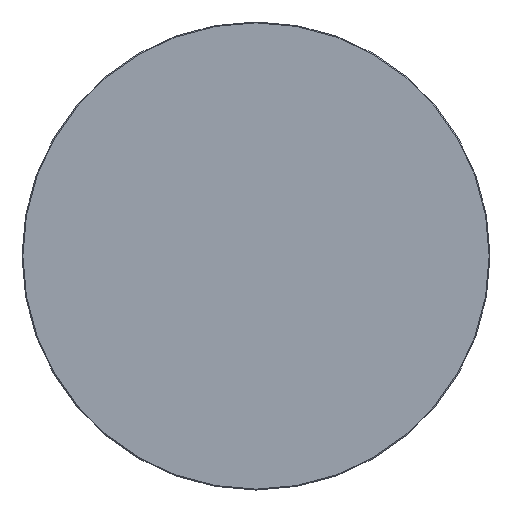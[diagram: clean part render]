
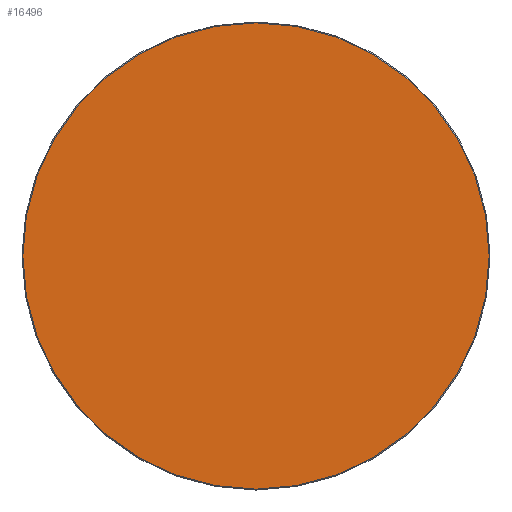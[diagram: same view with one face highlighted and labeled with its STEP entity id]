
A CAD part, top view. The second image highlights one B-rep face of the part: STEP entity #16496.
In plain terms, the highlighted planar face has unit normal (0, 0, 1).
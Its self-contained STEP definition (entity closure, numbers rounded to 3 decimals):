
#16421=CARTESIAN_POINT('',(0.,0.,20.));
#16422=DIRECTION('',(1.,0.,0.));
#16423=DIRECTION('',(0.,0.,1.));
#16424=AXIS2_PLACEMENT_3D('',#16421,#16423,#16422);
#16425=PLANE('',#16424);
#16426=CARTESIAN_POINT('',(-0.5,-398.5,20.));
#16427=VERTEX_POINT('',#16426);
#16428=CARTESIAN_POINT('',(0.5,-398.5,20.));
#16429=VERTEX_POINT('',#16428);
#16430=CARTESIAN_POINT('',(-0.5,-398.5,20.));
#16431=DIRECTION('',(1.,0.,0.));
#16432=VECTOR('',#16431,1.);
#16433=LINE('',#16430,#16432);
#16434=EDGE_CURVE('',#16427,#16429,#16433,.T.);
#16435=ORIENTED_EDGE('E105',*,*,#16434,.T.);
#16436=CARTESIAN_POINT('',(398.5,-0.5,20.));
#16437=VERTEX_POINT('',#16436);
#16438=CARTESIAN_POINT('',(0.5,-0.5,20.));
#16439=DIRECTION('',(0.,-1.,0.));
#16440=DIRECTION('',(0.,0.,1.));
#16441=AXIS2_PLACEMENT_3D('',#16438,#16440,#16439);
#16442=CIRCLE('',#16441,398.);
#16443=EDGE_CURVE('',#16429,#16437,#16442,.T.);
#16444=ORIENTED_EDGE('E107',*,*,#16443,.T.);
#16445=CARTESIAN_POINT('',(398.5,0.5,20.));
#16446=VERTEX_POINT('',#16445);
#16447=CARTESIAN_POINT('',(398.5,-0.5,20.));
#16448=DIRECTION('',(0.,1.,0.));
#16449=VECTOR('',#16448,1.);
#16450=LINE('',#16447,#16449);
#16451=EDGE_CURVE('',#16437,#16446,#16450,.T.);
#16452=ORIENTED_EDGE('E109',*,*,#16451,.T.);
#16453=CARTESIAN_POINT('',(0.5,398.5,20.));
#16454=VERTEX_POINT('',#16453);
#16455=CARTESIAN_POINT('',(0.5,0.5,20.));
#16456=DIRECTION('',(1.,0.,0.));
#16457=DIRECTION('',(0.,0.,1.));
#16458=AXIS2_PLACEMENT_3D('',#16455,#16457,#16456);
#16459=CIRCLE('',#16458,398.);
#16460=EDGE_CURVE('',#16446,#16454,#16459,.T.);
#16461=ORIENTED_EDGE('E111',*,*,#16460,.T.);
#16462=CARTESIAN_POINT('',(-0.5,398.5,20.));
#16463=VERTEX_POINT('',#16462);
#16464=CARTESIAN_POINT('',(0.5,398.5,20.));
#16465=DIRECTION('',(-1.,0.,0.));
#16466=VECTOR('',#16465,1.);
#16467=LINE('',#16464,#16466);
#16468=EDGE_CURVE('',#16454,#16463,#16467,.T.);
#16469=ORIENTED_EDGE('E113',*,*,#16468,.T.);
#16470=CARTESIAN_POINT('',(-398.5,0.5,20.));
#16471=VERTEX_POINT('',#16470);
#16472=CARTESIAN_POINT('',(-0.5,0.5,20.));
#16473=DIRECTION('',(0.,1.,0.));
#16474=DIRECTION('',(0.,0.,1.));
#16475=AXIS2_PLACEMENT_3D('',#16472,#16474,#16473);
#16476=CIRCLE('',#16475,398.);
#16477=EDGE_CURVE('',#16463,#16471,#16476,.T.);
#16478=ORIENTED_EDGE('E115',*,*,#16477,.T.);
#16479=CARTESIAN_POINT('',(-398.5,-0.5,20.));
#16480=VERTEX_POINT('',#16479);
#16481=CARTESIAN_POINT('',(-398.5,0.5,20.));
#16482=DIRECTION('',(0.,-1.,0.));
#16483=VECTOR('',#16482,1.);
#16484=LINE('',#16481,#16483);
#16485=EDGE_CURVE('',#16471,#16480,#16484,.T.);
#16486=ORIENTED_EDGE('E117',*,*,#16485,.T.);
#16487=CARTESIAN_POINT('',(-0.5,-0.5,20.));
#16488=DIRECTION('',(-1.,0.,0.));
#16489=DIRECTION('',(-0.,0.,1.));
#16490=AXIS2_PLACEMENT_3D('',#16487,#16489,#16488);
#16491=CIRCLE('',#16490,398.);
#16492=EDGE_CURVE('',#16480,#16427,#16491,.T.);
#16493=ORIENTED_EDGE('E119',*,*,#16492,.T.);
#16494=EDGE_LOOP('',(#16435,#16444,#16452,#16461,#16469,#16478,#16486,#16493));
#16495=FACE_OUTER_BOUND('',#16494,.T.);
#16496=ADVANCED_FACE('F2',(#16495),#16425,.T.);
